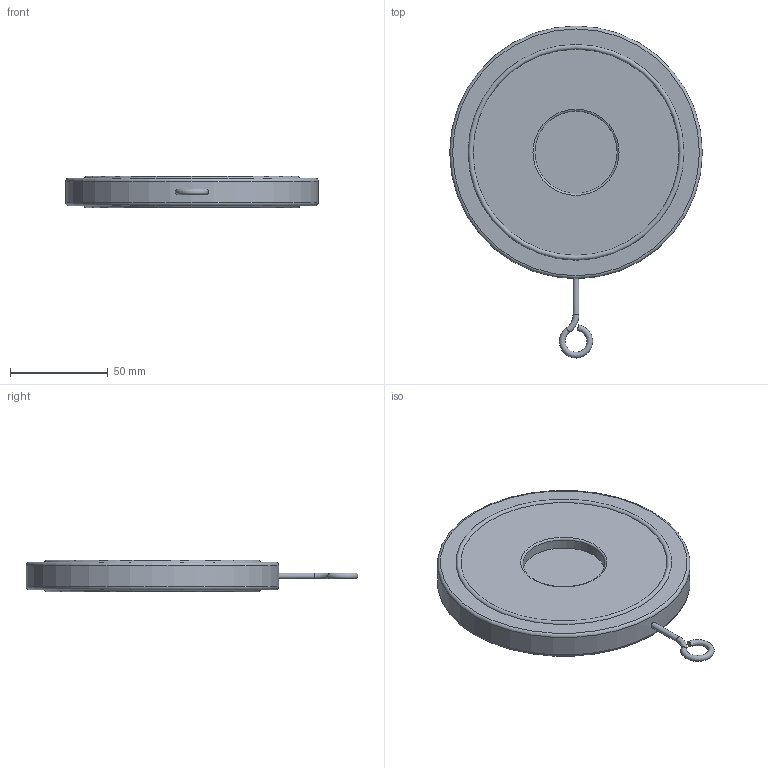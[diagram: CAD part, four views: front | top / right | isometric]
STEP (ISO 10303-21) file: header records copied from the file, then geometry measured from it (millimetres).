
FILE_DESCRIPTION( ( 'Unknown' ), '1' );
FILE_NAME( 'C:/Documents and Settings/Klaus/My Documents/Rootsi BPS 3D, Klaus/BPS 6505 swing check valve/STEP/BPS6505065 swing check valve DN65.stp', 'Unknown', ( 'Unknown' ), ( 'Unknown' ), 'PSStep 10.1', 'Unknown', ' ' );
FILE_SCHEMA( ( 'AUTOMOTIVE_DESIGN { 1 0 10303 214 1 1 1 1 }' ) );
Length unit declared in the file: millimetre
Products named in the file (1): 1
Bounding box: 129 x 169.49 x 16 mm (x, y, z)
Volume: 170994.4 mm3; surface area: 37325.6 mm2
Topology: 1 solids, 1 shells, 218 faces, 535 edges, 354 vertices
Faces by surface type: plane 136, extrusion 59, cylinder 13, torus 9, cone 1
Full cylindrical faces by diameter (mm): 3 x1, 10 x2, 42 x1, 129 x1
Entity records: 9939 total; most frequent: CARTESIAN_POINT 3641, ORIENTED_EDGE 1028, DIRECTION 650, EDGE_CURVE 514, VERTEX_POINT 349, B_SPLINE_CURVE_WITH_KNOTS 346, EDGE_LOOP 269, VECTOR 242
